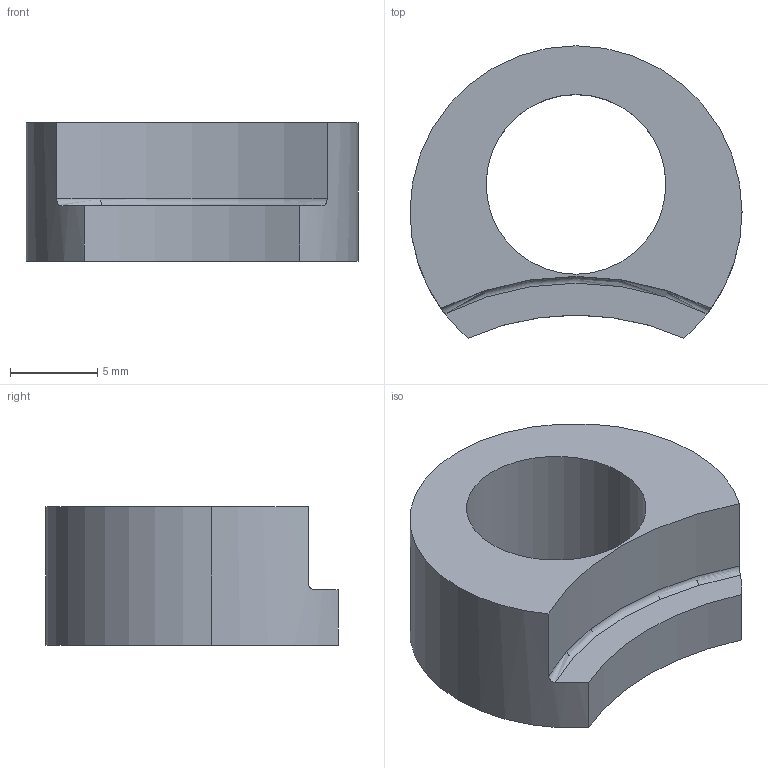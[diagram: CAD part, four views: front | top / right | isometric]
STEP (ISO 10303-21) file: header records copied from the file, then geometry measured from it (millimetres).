
FILE_DESCRIPTION (( 'STEP AP214' ), '1' );
FILE_NAME ('GK75-100 Flange Clamp-1.STEP', '2010-11-16T14:21:52', ( ' ' ), ( '' ), 'SwSTEP 2.0', 'SolidWorks 2010', '' );
FILE_SCHEMA (( 'AUTOMOTIVE_DESIGN' ));
Length unit declared in the file: inch
Products named in the file (1): GK75-100 Flange Clamp-1
Bounding box: 19.05 x 16.77 x 7.94 mm (x, y, z)
Volume: 1206.6 mm3; surface area: 1059.9 mm2
Topology: 1 solids, 1 shells, 11 faces, 27 edges, 18 vertices
Faces by surface type: cylinder 7, plane 3, torus 1
Entity records: 388 total; most frequent: CARTESIAN_POINT 67, DIRECTION 66, ORIENTED_EDGE 54, AXIS2_PLACEMENT_3D 29, EDGE_CURVE 27, VERTEX_POINT 18, CIRCLE 17, EDGE_LOOP 13
